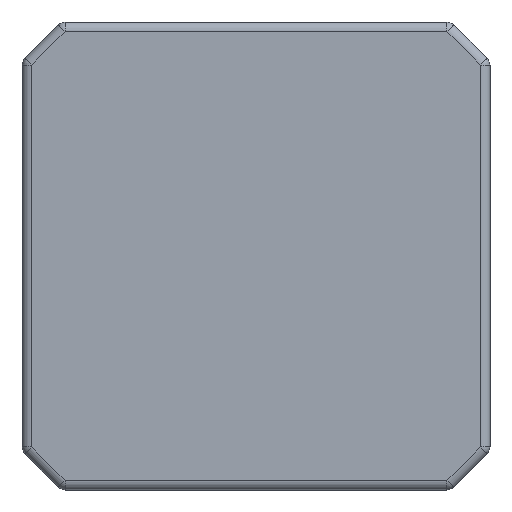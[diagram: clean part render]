
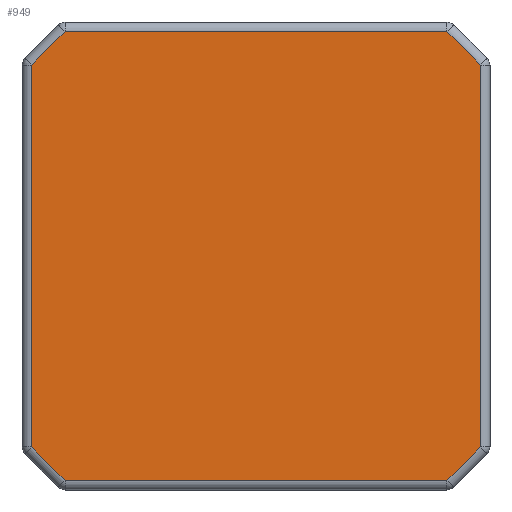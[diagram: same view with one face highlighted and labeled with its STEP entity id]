
A CAD part, front view. The second image highlights one B-rep face of the part: STEP entity #949.
In plain terms, the highlighted planar face has unit normal (0, -1, 0).
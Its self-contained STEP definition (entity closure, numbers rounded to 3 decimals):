
#40=PLANE('',#1102);
#65=LINE('',#1805,#118);
#73=LINE('',#1844,#126);
#75=LINE('',#1854,#128);
#79=LINE('',#1862,#132);
#81=LINE('',#1865,#134);
#85=LINE('',#1874,#138);
#93=LINE('',#1895,#146);
#95=LINE('',#1898,#148);
#118=VECTOR('',#1256,10.);
#126=VECTOR('',#1302,10.);
#128=VECTOR('',#1314,10.);
#132=VECTOR('',#1324,10.);
#134=VECTOR('',#1328,10.);
#138=VECTOR('',#1338,10.);
#146=VECTOR('',#1364,10.);
#148=VECTOR('',#1368,10.);
#245=FACE_OUTER_BOUND('',#314,.T.);
#314=EDGE_LOOP('',(#851,#852,#853,#854,#855,#856,#857,#858));
#439=VERTEX_POINT('',#1763);
#446=VERTEX_POINT('',#1778);
#450=VERTEX_POINT('',#1790);
#453=VERTEX_POINT('',#1797);
#457=VERTEX_POINT('',#1812);
#461=VERTEX_POINT('',#1820);
#465=VERTEX_POINT('',#1832);
#468=VERTEX_POINT('',#1846);
#545=EDGE_CURVE('',#453,#446,#65,.T.);
#565=EDGE_CURVE('',#457,#465,#73,.T.);
#570=EDGE_CURVE('',#468,#461,#75,.T.);
#575=EDGE_CURVE('',#465,#468,#79,.T.);
#577=EDGE_CURVE('',#461,#453,#81,.T.);
#582=EDGE_CURVE('',#450,#457,#85,.T.);
#594=EDGE_CURVE('',#439,#450,#93,.T.);
#596=EDGE_CURVE('',#446,#439,#95,.T.);
#851=ORIENTED_EDGE('',*,*,#570,.F.);
#852=ORIENTED_EDGE('',*,*,#575,.F.);
#853=ORIENTED_EDGE('',*,*,#565,.F.);
#854=ORIENTED_EDGE('',*,*,#582,.F.);
#855=ORIENTED_EDGE('',*,*,#594,.F.);
#856=ORIENTED_EDGE('',*,*,#596,.F.);
#857=ORIENTED_EDGE('',*,*,#545,.F.);
#858=ORIENTED_EDGE('',*,*,#577,.F.);
#949=ADVANCED_FACE('',(#245),#40,.F.);
#1102=AXIS2_PLACEMENT_3D('',#1935,#1426,#1427);
#1256=DIRECTION('',(0.,0.,1.));
#1302=DIRECTION('',(0.,0.,-1.));
#1314=DIRECTION('',(-1.,0.,0.));
#1324=DIRECTION('',(-0.707,0.,-0.707));
#1328=DIRECTION('',(-0.707,0.,0.707));
#1338=DIRECTION('',(0.707,0.,-0.707));
#1364=DIRECTION('',(1.,0.,0.));
#1368=DIRECTION('',(0.707,0.,0.707));
#1426=DIRECTION('center_axis',(0.,1.,0.));
#1427=DIRECTION('ref_axis',(1.,0.,0.));
#1763=CARTESIAN_POINT('',(-4.896,0.,5.75));
#1778=CARTESIAN_POINT('',(-5.75,0.,4.896));
#1790=CARTESIAN_POINT('',(4.896,0.,5.75));
#1797=CARTESIAN_POINT('',(-5.75,0.,-4.896));
#1805=CARTESIAN_POINT('',(-5.75,0.,-5.5));
#1812=CARTESIAN_POINT('',(5.75,0.,4.896));
#1820=CARTESIAN_POINT('',(-4.896,0.,-5.75));
#1832=CARTESIAN_POINT('',(5.75,0.,-4.896));
#1844=CARTESIAN_POINT('',(5.75,0.,0.5));
#1846=CARTESIAN_POINT('',(4.896,0.,-5.75));
#1854=CARTESIAN_POINT('',(3.,0.,-5.75));
#1862=CARTESIAN_POINT('',(4.073,0.,-6.573));
#1865=CARTESIAN_POINT('',(-4.073,0.,-6.573));
#1874=CARTESIAN_POINT('',(6.573,0.,4.073));
#1895=CARTESIAN_POINT('',(-3.,0.,5.75));
#1898=CARTESIAN_POINT('',(-6.573,0.,4.073));
#1935=CARTESIAN_POINT('Origin',(0.,0.,-5.));
